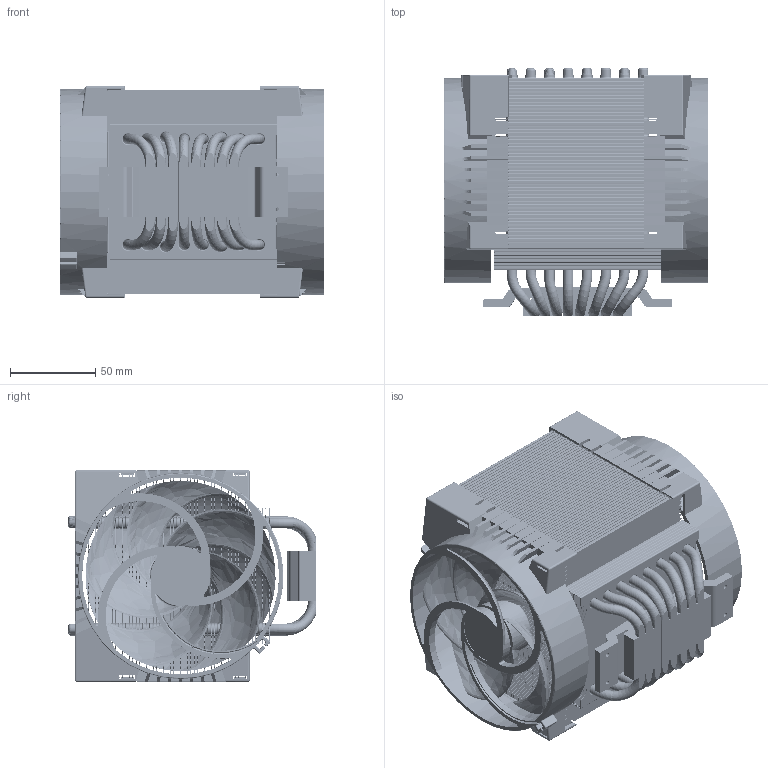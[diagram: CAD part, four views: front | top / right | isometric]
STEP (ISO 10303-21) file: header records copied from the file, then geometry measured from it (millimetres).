
FILE_DESCRIPTION (( 'STEP AP214' ), '1' );
FILE_NAME ('FREEZER 4U-M REV 2.STEP', '2025-02-10T04:42:43', ( '' ), ( '' ), 'SwSTEP 2.0', 'SolidWorks 2021', '' );
FILE_SCHEMA (( 'AUTOMOTIVE_DESIGN' ));
Length unit declared in the file: millimetre
Products named in the file (21): FREEZER 4U-M REV 2; FR4U_BOTTOM_FIN_Ampere; FR4U_HP05_Rev_h_c; FR4U_HP08_Ampere; p12_IMPELLER_REV05 (1); FR4U_HP07_Rev_h_c; FR4U_HP03_Rev_h_c; FR4U FAN CASE B_35MM HUB; FR4U_FINA_Ampere; FR4U_AL_BASE_Ampere; FR4U_FINB_Ampere; FR4U_HP06_Rev_h_c; FR4U_FINB_BOTTOM_Ampere; FR4U_HP02_Rev_h_c; FR4U Fan set B; FR4U FAN CASE A_35MM HUB; FR4U_HP01_Ampere; FR4U_HP04_Rev_h_c; FR4U FAN SET A; FREEZER_4U_HEATSINK_ASM_Ampere; FR4U_TOP FIN_Ampere
Assembly tree (73 placements, depth 3):
  FREEZER 4U-M REV 2
    FREEZER_4U_HEATSINK_ASM_Ampere
      FR4U_HP01_Ampere
      FR4U_HP02_Rev_h_c
      FR4U_HP03_Rev_h_c
      FR4U_HP04_Rev_h_c
      FR4U_HP05_Rev_h_c
      FR4U_HP06_Rev_h_c
      FR4U_HP07_Rev_h_c
      FR4U_HP08_Ampere
      FR4U_TOP FIN_Ampere  x2
      FR4U_FINB_Ampere  x47
      FR4U_FINA_Ampere  x4
      FR4U_BOTTOM_FIN_Ampere  x3
      FR4U_FINB_BOTTOM_Ampere
      FR4U_AL_BASE_Ampere
    FR4U Fan set B
      FR4U FAN CASE B_35MM HUB
      p12_IMPELLER_REV05 (1)
    FR4U FAN SET A
      FR4U FAN CASE A_35MM HUB
      p12_IMPELLER_REV05 (1)
Bounding box: 155.15 x 145 x 124 mm (x, y, z)
Volume: 486383.2 mm3; surface area: 1428250.6 mm2
Topology: 70 solids, 70 shells, 24928 faces, 66346 edges, 42447 vertices
Faces by surface type: cylinder 11082, plane 9284, torus 3879, bspline 579, sphere 72, cone 32
Entity records: 147859 total; most frequent: CARTESIAN_POINT 44085, ORIENTED_EDGE 20778, DIRECTION 20411, EDGE_CURVE 10389, AXIS2_PLACEMENT_3D 7604, VERTEX_POINT 6610, VECTOR 5203, LINE 5203
